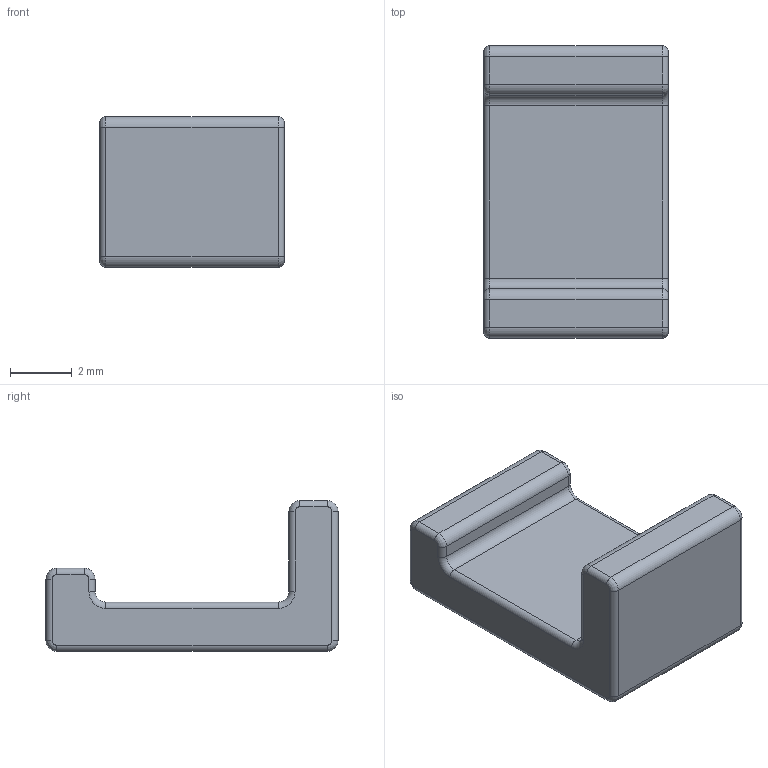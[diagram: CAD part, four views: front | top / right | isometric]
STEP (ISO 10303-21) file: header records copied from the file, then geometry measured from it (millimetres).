
FILE_DESCRIPTION(('Open CASCADE Model'),'2;1');
FILE_NAME('Open CASCADE Shape Model','2026-10-07T01:42:18',('Author'),( 'Open CASCADE'),'Open CASCADE STEP processor 7.9','Open CASCADE 7.9' ,'Unknown');
FILE_SCHEMA(('AUTOMOTIVE_DESIGN { 1 0 10303 214 1 1 1 1 }'));
Length unit declared in the file: millimetre
Products named in the file (1): Open CASCADE STEP translator 7.9 1
Bounding box: 6 x 9.5 x 4.9 mm (x, y, z)
Volume: 132.3 mm3; surface area: 217.9 mm2
Topology: 1 solids, 1 shells, 50 faces, 112 edges, 64 vertices
Faces by surface type: cylinder 24, revolution 12, plane 10, torus 4
Entity records: 2882 total; most frequent: CARTESIAN_POINT 623, DIRECTION 422, ORIENTED_EDGE 224, PCURVE 224, DEFINITIONAL_REPRESENTATION 224, LINE 192, VECTOR 192, EDGE_CURVE 112
